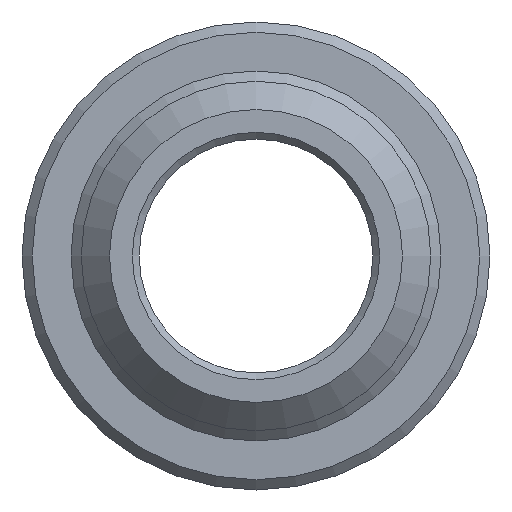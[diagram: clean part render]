
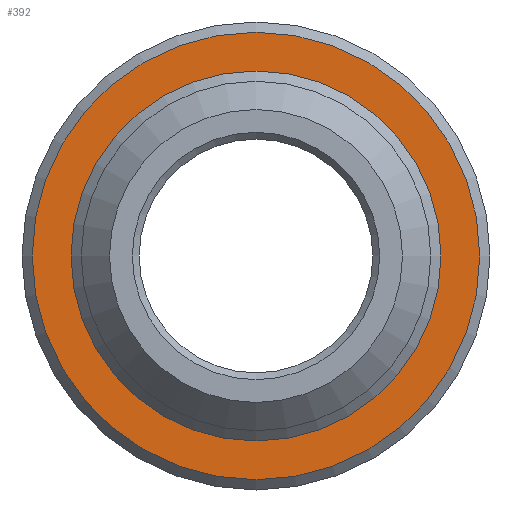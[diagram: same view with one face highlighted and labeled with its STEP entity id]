
A CAD part, front view. The second image highlights one B-rep face of the part: STEP entity #392.
In plain terms, the highlighted planar face has unit normal (0, -1, 0).
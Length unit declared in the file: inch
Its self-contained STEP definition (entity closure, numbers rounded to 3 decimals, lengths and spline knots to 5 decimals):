
#33=FACE_BOUND('',#86,.T.);
#44=PLANE('',#443);
#60=FACE_OUTER_BOUND('',#85,.T.);
#85=EDGE_LOOP('',(#316));
#86=EDGE_LOOP('',(#317));
#158=CIRCLE('',#442,0.27154);
#159=CIRCLE('',#444,0.3285);
#195=VERTEX_POINT('',#678);
#196=VERTEX_POINT('',#682);
#243=EDGE_CURVE('',#195,#195,#158,.T.);
#244=EDGE_CURVE('',#196,#196,#159,.T.);
#316=ORIENTED_EDGE('',*,*,#244,.F.);
#317=ORIENTED_EDGE('',*,*,#243,.F.);
#392=ADVANCED_FACE('',(#60,#33),#44,.T.);
#442=AXIS2_PLACEMENT_3D('',#680,#536,#537);
#443=AXIS2_PLACEMENT_3D('',#681,#538,#539);
#444=AXIS2_PLACEMENT_3D('',#683,#540,#541);
#536=DIRECTION('center_axis',(0.,-1.,0.));
#537=DIRECTION('ref_axis',(0.,0.,-1.));
#538=DIRECTION('center_axis',(0.,-1.,0.));
#539=DIRECTION('ref_axis',(0.,0.,-1.));
#540=DIRECTION('center_axis',(0.,1.,0.));
#541=DIRECTION('ref_axis',(0.,0.,1.));
#678=CARTESIAN_POINT('',(0.,3.,0.27154));
#680=CARTESIAN_POINT('Origin',(0.,3.,0.));
#681=CARTESIAN_POINT('Origin',(0.,3.,-0.27));
#682=CARTESIAN_POINT('',(0.,3.,-0.3285));
#683=CARTESIAN_POINT('Origin',(0.,3.,0.));
